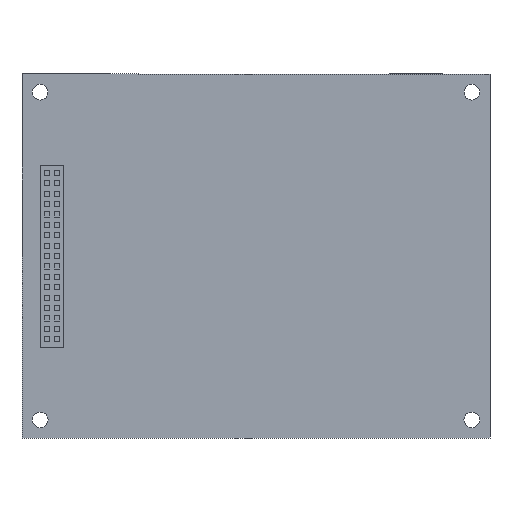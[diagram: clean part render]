
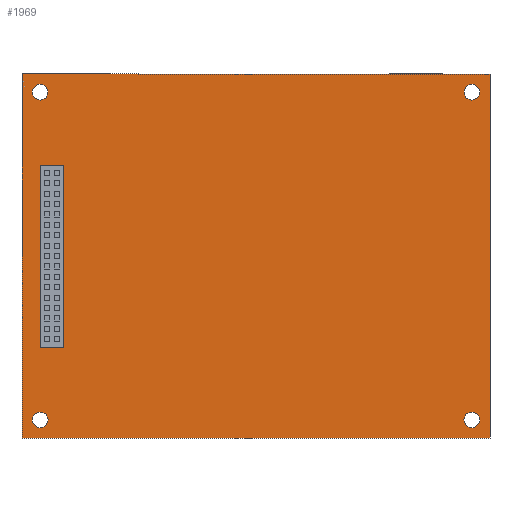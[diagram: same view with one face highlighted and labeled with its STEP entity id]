
A CAD part, front view. The second image highlights one B-rep face of the part: STEP entity #1969.
In plain terms, the highlighted planar face has unit normal (0, -1, 0).
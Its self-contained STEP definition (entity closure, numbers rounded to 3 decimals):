
#8 = AXIS2_PLACEMENT_3D ( 'NONE', #2910, #4985, #4501 ) ;
#32 = DIRECTION ( 'NONE',  ( 0., 0., 1. ) ) ;
#39 = VERTEX_POINT ( 'NONE', #5277 ) ;
#65 = DIRECTION ( 'NONE',  ( 0., 1., 0. ) ) ;
#103 = EDGE_CURVE ( 'NONE', #5329, #912, #4238, .T. ) ;
#126 = DIRECTION ( 'NONE',  ( 0., 1., 0. ) ) ;
#170 = CARTESIAN_POINT ( 'NONE',  ( -41.5, 0., -17.5 ) ) ;
#188 = EDGE_CURVE ( 'NONE', #761, #6223, #4971, .T. ) ;
#207 = ORIENTED_EDGE ( 'NONE', *, *, #3882, .T. ) ;
#235 = DIRECTION ( 'NONE',  ( 1., 0., 0. ) ) ;
#276 = DIRECTION ( 'NONE',  ( 0., 0., 1. ) ) ;
#303 = DIRECTION ( 'NONE',  ( 0., 0., -1. ) ) ;
#323 = CIRCLE ( 'NONE', #6219, 1.5 ) ;
#351 = EDGE_LOOP ( 'NONE', ( #5051, #6729 ) ) ;
#425 = EDGE_CURVE ( 'NONE', #6316, #5823, #3101, .T. ) ;
#520 = AXIS2_PLACEMENT_3D ( 'NONE', #4232, #65, #3208 ) ;
#573 = VERTEX_POINT ( 'NONE', #2429 ) ;
#720 = FACE_BOUND ( 'NONE', #2737, .T. ) ;
#761 = VERTEX_POINT ( 'NONE', #3103 ) ;
#813 = AXIS2_PLACEMENT_3D ( 'NONE', #2556, #4643, #1481 ) ;
#821 = ORIENTED_EDGE ( 'NONE', *, *, #1200, .T. ) ;
#823 = EDGE_CURVE ( 'NONE', #5381, #2362, #6453, .T. ) ;
#839 = DIRECTION ( 'NONE',  ( 0., 1., 0. ) ) ;
#857 = EDGE_CURVE ( 'NONE', #3253, #39, #1768, .T. ) ;
#912 = VERTEX_POINT ( 'NONE', #2553 ) ;
#940 = DIRECTION ( 'NONE',  ( 0., 0., -1. ) ) ;
#1156 = CIRCLE ( 'NONE', #8, 1.5 ) ;
#1163 = AXIS2_PLACEMENT_3D ( 'NONE', #5186, #6759, #2052 ) ;
#1200 = EDGE_CURVE ( 'NONE', #5791, #1648, #4474, .T. ) ;
#1263 = ORIENTED_EDGE ( 'NONE', *, *, #188, .F. ) ;
#1297 = ORIENTED_EDGE ( 'NONE', *, *, #6096, .T. ) ;
#1323 = AXIS2_PLACEMENT_3D ( 'NONE', #3275, #126, #2863 ) ;
#1417 = AXIS2_PLACEMENT_3D ( 'NONE', #3603, #5620, #4664 ) ;
#1438 = CARTESIAN_POINT ( 'NONE',  ( -41.5, 0., -30. ) ) ;
#1469 = VECTOR ( 'NONE', #6313, 1000. ) ;
#1481 = DIRECTION ( 'NONE',  ( 0., 0., 1. ) ) ;
#1569 = CARTESIAN_POINT ( 'NONE',  ( -37., 0., -17.5 ) ) ;
#1613 = EDGE_CURVE ( 'NONE', #39, #5329, #3250, .T. ) ;
#1625 = ORIENTED_EDGE ( 'NONE', *, *, #103, .F. ) ;
#1648 = VERTEX_POINT ( 'NONE', #2327 ) ;
#1704 = ORIENTED_EDGE ( 'NONE', *, *, #1613, .F. ) ;
#1721 = ORIENTED_EDGE ( 'NONE', *, *, #857, .F. ) ;
#1763 = EDGE_LOOP ( 'NONE', ( #2776, #4368, #1263, #5586 ) ) ;
#1768 = LINE ( 'NONE', #4579, #2089 ) ;
#1819 = AXIS2_PLACEMENT_3D ( 'NONE', #1832, #4489, #276 ) ;
#1832 = CARTESIAN_POINT ( 'NONE',  ( 0., 0., 0. ) ) ;
#1969 = ADVANCED_FACE ( 'NONE', ( #3902, #3824, #720, #5959, #2413, #2178 ), #6025, .F. ) ;
#2006 = ORIENTED_EDGE ( 'NONE', *, *, #3178, .T. ) ;
#2052 = DIRECTION ( 'NONE',  ( 0., 0., 1. ) ) ;
#2057 = CARTESIAN_POINT ( 'NONE',  ( -45., 0., -35. ) ) ;
#2089 = VECTOR ( 'NONE', #940, 1000. ) ;
#2112 = LINE ( 'NONE', #2743, #5076 ) ;
#2123 = CARTESIAN_POINT ( 'NONE',  ( 41.5, 0., -30. ) ) ;
#2178 = FACE_BOUND ( 'NONE', #4676, .T. ) ;
#2188 = ORIENTED_EDGE ( 'NONE', *, *, #3791, .F. ) ;
#2255 = EDGE_CURVE ( 'NONE', #4967, #573, #4214, .T. ) ;
#2327 = CARTESIAN_POINT ( 'NONE',  ( -41.5, 0., 30. ) ) ;
#2335 = CARTESIAN_POINT ( 'NONE',  ( -45., 0., 35. ) ) ;
#2343 = CARTESIAN_POINT ( 'NONE',  ( 45., 0., 35. ) ) ;
#2362 = VERTEX_POINT ( 'NONE', #3284 ) ;
#2413 = FACE_BOUND ( 'NONE', #351, .T. ) ;
#2429 = CARTESIAN_POINT ( 'NONE',  ( 41.5, 0., -33. ) ) ;
#2553 = CARTESIAN_POINT ( 'NONE',  ( -37., 0., 17.5 ) ) ;
#2556 = CARTESIAN_POINT ( 'NONE',  ( 41.5, 0., 31.5 ) ) ;
#2644 = CARTESIAN_POINT ( 'NONE',  ( 41.5, 0., -31.5 ) ) ;
#2737 = EDGE_LOOP ( 'NONE', ( #6490, #207 ) ) ;
#2743 = CARTESIAN_POINT ( 'NONE',  ( 45., 0., 35. ) ) ;
#2776 = ORIENTED_EDGE ( 'NONE', *, *, #425, .F. ) ;
#2791 = CIRCLE ( 'NONE', #1323, 1.5 ) ;
#2863 = DIRECTION ( 'NONE',  ( 0., 0., 1. ) ) ;
#2910 = CARTESIAN_POINT ( 'NONE',  ( 41.5, 0., -31.5 ) ) ;
#2913 = DIRECTION ( 'NONE',  ( 0., 0., 1. ) ) ;
#3101 = LINE ( 'NONE', #5781, #1469 ) ;
#3103 = CARTESIAN_POINT ( 'NONE',  ( 45., 0., 35. ) ) ;
#3177 = VERTEX_POINT ( 'NONE', #4826 ) ;
#3178 = EDGE_CURVE ( 'NONE', #5702, #3177, #2791, .T. ) ;
#3208 = DIRECTION ( 'NONE',  ( 0., 0., 1. ) ) ;
#3242 = DIRECTION ( 'NONE',  ( 0., 0., 1. ) ) ;
#3250 = LINE ( 'NONE', #170, #6199 ) ;
#3253 = VERTEX_POINT ( 'NONE', #3944 ) ;
#3275 = CARTESIAN_POINT ( 'NONE',  ( 41.5, 0., 31.5 ) ) ;
#3284 = CARTESIAN_POINT ( 'NONE',  ( -41.5, 0., -33. ) ) ;
#3320 = CARTESIAN_POINT ( 'NONE',  ( -37., 0., 17.5 ) ) ;
#3357 = CIRCLE ( 'NONE', #813, 1.5 ) ;
#3359 = DIRECTION ( 'NONE',  ( 1., 0., 0. ) ) ;
#3456 = CARTESIAN_POINT ( 'NONE',  ( -41.5, 0., -31.5 ) ) ;
#3500 = VECTOR ( 'NONE', #32, 1000. ) ;
#3603 = CARTESIAN_POINT ( 'NONE',  ( -41.5, 0., 31.5 ) ) ;
#3718 = CARTESIAN_POINT ( 'NONE',  ( 41.5, 0., 30. ) ) ;
#3791 = EDGE_CURVE ( 'NONE', #912, #3253, #4024, .T. ) ;
#3824 = FACE_BOUND ( 'NONE', #6617, .T. ) ;
#3855 = DIRECTION ( 'NONE',  ( -1., 0., 0. ) ) ;
#3882 = EDGE_CURVE ( 'NONE', #573, #4967, #1156, .T. ) ;
#3902 = FACE_OUTER_BOUND ( 'NONE', #1763, .T. ) ;
#3944 = CARTESIAN_POINT ( 'NONE',  ( -41.5, 0., 17.5 ) ) ;
#3975 = CARTESIAN_POINT ( 'NONE',  ( -37., 0., -17.5 ) ) ;
#4024 = LINE ( 'NONE', #3320, #6489 ) ;
#4071 = EDGE_CURVE ( 'NONE', #1648, #5791, #5337, .T. ) ;
#4176 = CARTESIAN_POINT ( 'NONE',  ( 45., 0., -35. ) ) ;
#4214 = CIRCLE ( 'NONE', #4662, 1.5 ) ;
#4232 = CARTESIAN_POINT ( 'NONE',  ( -41.5, 0., 31.5 ) ) ;
#4238 = LINE ( 'NONE', #1569, #3500 ) ;
#4368 = ORIENTED_EDGE ( 'NONE', *, *, #5283, .F. ) ;
#4474 = CIRCLE ( 'NONE', #520, 1.5 ) ;
#4489 = DIRECTION ( 'NONE',  ( 0., 1., 0. ) ) ;
#4501 = DIRECTION ( 'NONE',  ( 0., 0., 1. ) ) ;
#4507 = ORIENTED_EDGE ( 'NONE', *, *, #4071, .T. ) ;
#4577 = EDGE_CURVE ( 'NONE', #5823, #761, #2112, .T. ) ;
#4579 = CARTESIAN_POINT ( 'NONE',  ( -41.5, 0., 17.5 ) ) ;
#4643 = DIRECTION ( 'NONE',  ( 0., 1., 0. ) ) ;
#4662 = AXIS2_PLACEMENT_3D ( 'NONE', #2644, #5312, #3242 ) ;
#4664 = DIRECTION ( 'NONE',  ( 0., 0., 1. ) ) ;
#4676 = EDGE_LOOP ( 'NONE', ( #1625, #1704, #1721, #2188 ) ) ;
#4812 = VECTOR ( 'NONE', #303, 1000. ) ;
#4826 = CARTESIAN_POINT ( 'NONE',  ( 41.5, 0., 33. ) ) ;
#4967 = VERTEX_POINT ( 'NONE', #2123 ) ;
#4971 = LINE ( 'NONE', #2343, #4812 ) ;
#4985 = DIRECTION ( 'NONE',  ( 0., 1., 0. ) ) ;
#5051 = ORIENTED_EDGE ( 'NONE', *, *, #823, .T. ) ;
#5076 = VECTOR ( 'NONE', #3359, 1000. ) ;
#5186 = CARTESIAN_POINT ( 'NONE',  ( -41.5, 0., -31.5 ) ) ;
#5277 = CARTESIAN_POINT ( 'NONE',  ( -41.5, 0., -17.5 ) ) ;
#5283 = EDGE_CURVE ( 'NONE', #6223, #6316, #6402, .T. ) ;
#5312 = DIRECTION ( 'NONE',  ( 0., 1., 0. ) ) ;
#5329 = VERTEX_POINT ( 'NONE', #3975 ) ;
#5337 = CIRCLE ( 'NONE', #1417, 1.5 ) ;
#5381 = VERTEX_POINT ( 'NONE', #1438 ) ;
#5472 = EDGE_LOOP ( 'NONE', ( #1297, #2006 ) ) ;
#5586 = ORIENTED_EDGE ( 'NONE', *, *, #4577, .F. ) ;
#5620 = DIRECTION ( 'NONE',  ( 0., 1., 0. ) ) ;
#5702 = VERTEX_POINT ( 'NONE', #3718 ) ;
#5781 = CARTESIAN_POINT ( 'NONE',  ( -45., 0., 35. ) ) ;
#5791 = VERTEX_POINT ( 'NONE', #6789 ) ;
#5823 = VERTEX_POINT ( 'NONE', #2335 ) ;
#5959 = FACE_BOUND ( 'NONE', #5472, .T. ) ;
#5980 = EDGE_CURVE ( 'NONE', #2362, #5381, #323, .T. ) ;
#6004 = DIRECTION ( 'NONE',  ( -1., 0., 0. ) ) ;
#6025 = PLANE ( 'NONE',  #1819 ) ;
#6096 = EDGE_CURVE ( 'NONE', #3177, #5702, #3357, .T. ) ;
#6199 = VECTOR ( 'NONE', #235, 1000. ) ;
#6219 = AXIS2_PLACEMENT_3D ( 'NONE', #3456, #839, #2913 ) ;
#6223 = VERTEX_POINT ( 'NONE', #4176 ) ;
#6313 = DIRECTION ( 'NONE',  ( 0., 0., 1. ) ) ;
#6316 = VERTEX_POINT ( 'NONE', #2057 ) ;
#6402 = LINE ( 'NONE', #6528, #6644 ) ;
#6453 = CIRCLE ( 'NONE', #1163, 1.5 ) ;
#6489 = VECTOR ( 'NONE', #3855, 1000. ) ;
#6490 = ORIENTED_EDGE ( 'NONE', *, *, #2255, .T. ) ;
#6528 = CARTESIAN_POINT ( 'NONE',  ( 45., 0., -35. ) ) ;
#6617 = EDGE_LOOP ( 'NONE', ( #821, #4507 ) ) ;
#6644 = VECTOR ( 'NONE', #6004, 1000. ) ;
#6729 = ORIENTED_EDGE ( 'NONE', *, *, #5980, .T. ) ;
#6759 = DIRECTION ( 'NONE',  ( 0., 1., 0. ) ) ;
#6789 = CARTESIAN_POINT ( 'NONE',  ( -41.5, 0., 33. ) ) ;
